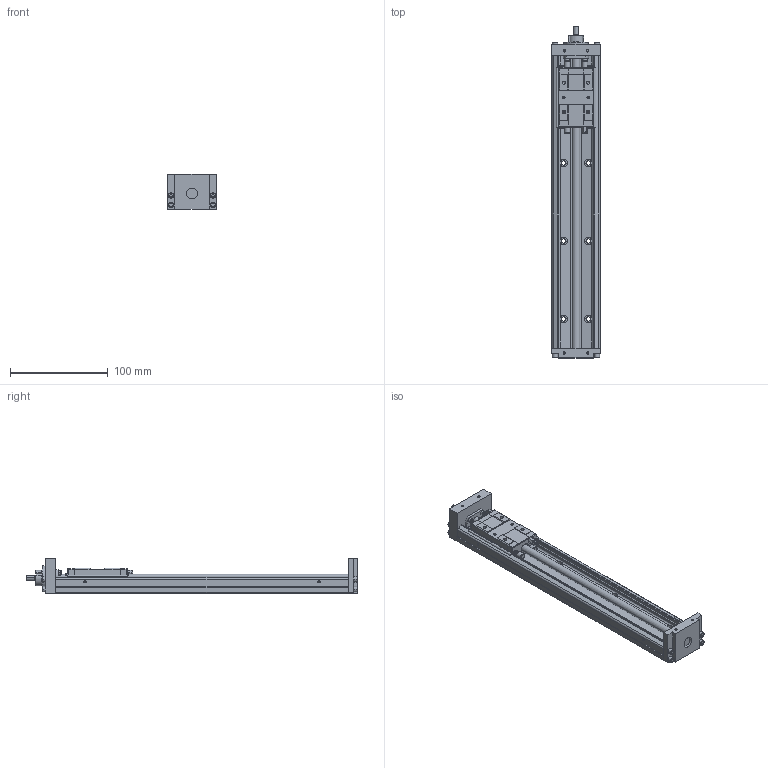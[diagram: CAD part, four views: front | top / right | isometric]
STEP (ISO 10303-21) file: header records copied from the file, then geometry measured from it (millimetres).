
FILE_DESCRIPTION(('no description'),'unknown implementation level');
FILE_NAME('KK5002P300A1H0000_FILE_14.stp',' ',('HIWIN GmbH'),('CADClick - KiM GmbH - www.kimweb.de'),'unknown preprocess','ACIS','unknown authorization');
FILE_SCHEMA(('automotive_design'));
Length unit declared in the file: millimetre
Products named in the file (2): KK50_FILE; KK5002P300A1H0000_FILE
Bounding box: 50 x 340.5 x 36 mm (x, y, z)
Volume: 234722.2 mm3; surface area: 76884.1 mm2
Topology: 2 solids, 10 shells, 642 faces, 1614 edges, 1023 vertices
Faces by surface type: plane 375, cylinder 183, cone 42, torus 42
Entity records: 37828 total; most frequent: CARTESIAN_POINT 3887, DIRECTION 3362, STYLED_ITEM 3255, PRESENTATION_STYLE_ASSIGNMENT 3255, COLOUR_RGB 3255, ORIENTED_EDGE 3176, EDGE_CURVE 1588, CURVE_STYLE 1588
